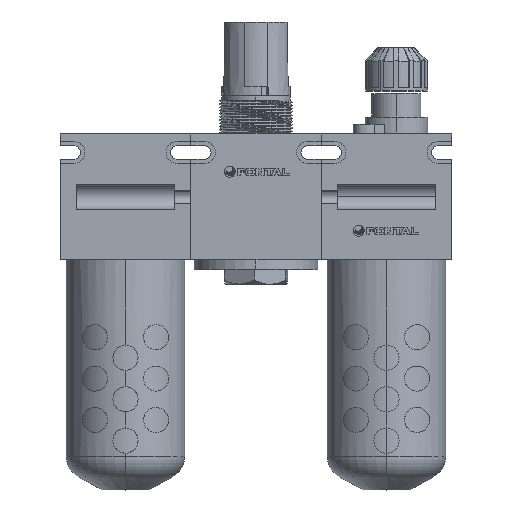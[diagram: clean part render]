
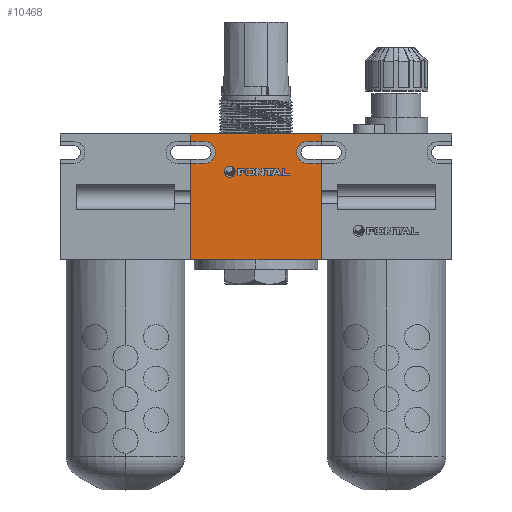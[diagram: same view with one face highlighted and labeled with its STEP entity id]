
A CAD part, top view. The second image highlights one B-rep face of the part: STEP entity #10468.
In plain terms, the highlighted planar face has unit normal (0, 0, 1).
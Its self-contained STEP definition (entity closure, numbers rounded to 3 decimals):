
#105 = CARTESIAN_POINT ( 'NONE',  ( -21., 18., 25.5 ) ) ;
#326 = EDGE_CURVE ( 'NONE', #9000, #21343, #13275, .T. ) ;
#359 = EDGE_CURVE ( 'NONE', #9798, #9694, #20286, .T. ) ;
#595 = DIRECTION ( 'NONE',  ( 1., 0., 0. ) ) ;
#787 = VERTEX_POINT ( 'NONE', #10275 ) ;
#973 = LINE ( 'NONE', #20592, #17378 ) ;
#1043 = ORIENTED_EDGE ( 'NONE', *, *, #8790, .F. ) ;
#1385 = FACE_OUTER_BOUND ( 'NONE', #3854, .T. ) ;
#1444 = CARTESIAN_POINT ( 'NONE',  ( 0., 0., 25.5 ) ) ;
#1609 = CARTESIAN_POINT ( 'NONE',  ( -26.5, 13.5, 25.5 ) ) ;
#1610 = EDGE_CURVE ( 'NONE', #19266, #9798, #21282, .T. ) ;
#1917 = CARTESIAN_POINT ( 'NONE',  ( 26.5, -25.5, 25.5 ) ) ;
#1954 = DIRECTION ( 'NONE',  ( 0., 1., 0. ) ) ;
#2467 = DIRECTION ( 'NONE',  ( 0., -1., 0. ) ) ;
#2652 = ORIENTED_EDGE ( 'NONE', *, *, #16516, .T. ) ;
#2708 = EDGE_CURVE ( 'NONE', #6701, #13417, #13602, .T. ) ;
#2999 = DIRECTION ( 'NONE',  ( -1., 0., 0. ) ) ;
#3025 = VECTOR ( 'NONE', #18273, 1000. ) ;
#3139 = DIRECTION ( 'NONE',  ( 0., 0., 1. ) ) ;
#3378 = VECTOR ( 'NONE', #6744, 1000. ) ;
#3572 = CARTESIAN_POINT ( 'NONE',  ( -26.5, 25.5, 25.5 ) ) ;
#3795 = CARTESIAN_POINT ( 'NONE',  ( -21., 22.5, 25.5 ) ) ;
#3854 = EDGE_LOOP ( 'NONE', ( #20158, #7472, #15091, #14853, #18501, #14666, #2652, #1043, #6659, #5483, #14826, #18643, #8374 ) ) ;
#3926 = LINE ( 'NONE', #17791, #21095 ) ;
#4516 = VECTOR ( 'NONE', #10303, 1000. ) ;
#4566 = CARTESIAN_POINT ( 'NONE',  ( -21., 13.5, 25.5 ) ) ;
#4596 = LINE ( 'NONE', #9892, #3025 ) ;
#4616 = EDGE_CURVE ( 'NONE', #20814, #16116, #16654, .T. ) ;
#4757 = EDGE_CURVE ( 'NONE', #9694, #12743, #18974, .T. ) ;
#4790 = DIRECTION ( 'NONE',  ( 0., 0., 1. ) ) ;
#5173 = DIRECTION ( 'NONE',  ( -1., 0., 0. ) ) ;
#5248 = CARTESIAN_POINT ( 'NONE',  ( 21., 18., 25.5 ) ) ;
#5425 = CARTESIAN_POINT ( 'NONE',  ( -26.5, 13.5, 25.5 ) ) ;
#5483 = ORIENTED_EDGE ( 'NONE', *, *, #359, .F. ) ;
#6155 = LINE ( 'NONE', #20412, #11383 ) ;
#6259 = CARTESIAN_POINT ( 'NONE',  ( -26.5, 25.5, 25.5 ) ) ;
#6458 = PLANE ( 'NONE',  #7314 ) ;
#6600 = CARTESIAN_POINT ( 'NONE',  ( -26.5, -25.5, 25.5 ) ) ;
#6659 = ORIENTED_EDGE ( 'NONE', *, *, #4757, .F. ) ;
#6701 = VERTEX_POINT ( 'NONE', #8365 ) ;
#6744 = DIRECTION ( 'NONE',  ( 1., 0., 0. ) ) ;
#7126 = EDGE_CURVE ( 'NONE', #19266, #20814, #973, .T. ) ;
#7314 = AXIS2_PLACEMENT_3D ( 'NONE', #1444, #4790, #7967 ) ;
#7382 = AXIS2_PLACEMENT_3D ( 'NONE', #5248, #10245, #5173 ) ;
#7472 = ORIENTED_EDGE ( 'NONE', *, *, #13763, .T. ) ;
#7529 = VERTEX_POINT ( 'NONE', #6259 ) ;
#7618 = EDGE_CURVE ( 'NONE', #16116, #787, #4596, .T. ) ;
#7656 = VECTOR ( 'NONE', #2999, 1000. ) ;
#7747 = VECTOR ( 'NONE', #1954, 1000. ) ;
#7963 = VECTOR ( 'NONE', #595, 1000. ) ;
#7967 = DIRECTION ( 'NONE',  ( 1., 0., 0. ) ) ;
#8365 = CARTESIAN_POINT ( 'NONE',  ( 21., 13.5, 25.5 ) ) ;
#8374 = ORIENTED_EDGE ( 'NONE', *, *, #4616, .T. ) ;
#8721 = LINE ( 'NONE', #13293, #7656 ) ;
#8790 = EDGE_CURVE ( 'NONE', #12743, #12918, #8721, .T. ) ;
#9000 = VERTEX_POINT ( 'NONE', #12164 ) ;
#9410 = DIRECTION ( 'NONE',  ( -1., 0., 0. ) ) ;
#9694 = VERTEX_POINT ( 'NONE', #12884 ) ;
#9798 = VERTEX_POINT ( 'NONE', #4566 ) ;
#9892 = CARTESIAN_POINT ( 'NONE',  ( 26.5, 25.5, 25.5 ) ) ;
#10245 = DIRECTION ( 'NONE',  ( 0., 0., -1. ) ) ;
#10275 = CARTESIAN_POINT ( 'NONE',  ( 26.5, 13.5, 25.5 ) ) ;
#10303 = DIRECTION ( 'NONE',  ( 0., -1., 0. ) ) ;
#10402 = CARTESIAN_POINT ( 'NONE',  ( -26.5, 22.5, 25.5 ) ) ;
#10468 = ADVANCED_FACE ( 'NONE', ( #1385 ), #6458, .T. ) ;
#10512 = CARTESIAN_POINT ( 'NONE',  ( 21., 22.5, 25.5 ) ) ;
#11383 = VECTOR ( 'NONE', #17066, 1000. ) ;
#11515 = AXIS2_PLACEMENT_3D ( 'NONE', #105, #3139, #21462 ) ;
#11916 = VECTOR ( 'NONE', #19709, 1000. ) ;
#12164 = CARTESIAN_POINT ( 'NONE',  ( 26.5, 22.5, 25.5 ) ) ;
#12291 = CARTESIAN_POINT ( 'NONE',  ( 21., 22.5, 25.5 ) ) ;
#12459 = CARTESIAN_POINT ( 'NONE',  ( -26.5, -25.5, 25.5 ) ) ;
#12743 = VERTEX_POINT ( 'NONE', #3795 ) ;
#12884 = CARTESIAN_POINT ( 'NONE',  ( -16.5, 18., 25.5 ) ) ;
#12918 = VERTEX_POINT ( 'NONE', #10402 ) ;
#13275 = LINE ( 'NONE', #15160, #7747 ) ;
#13293 = CARTESIAN_POINT ( 'NONE',  ( -21., 22.5, 25.5 ) ) ;
#13417 = VERTEX_POINT ( 'NONE', #12291 ) ;
#13602 = CIRCLE ( 'NONE', #7382, 4.5 ) ;
#13763 = EDGE_CURVE ( 'NONE', #787, #6701, #6155, .T. ) ;
#14309 = EDGE_CURVE ( 'NONE', #13417, #9000, #18652, .T. ) ;
#14372 = CARTESIAN_POINT ( 'NONE',  ( -21., 18., 25.5 ) ) ;
#14666 = ORIENTED_EDGE ( 'NONE', *, *, #19493, .T. ) ;
#14826 = ORIENTED_EDGE ( 'NONE', *, *, #1610, .F. ) ;
#14853 = ORIENTED_EDGE ( 'NONE', *, *, #14309, .T. ) ;
#15091 = ORIENTED_EDGE ( 'NONE', *, *, #2708, .T. ) ;
#15160 = CARTESIAN_POINT ( 'NONE',  ( 26.5, 25.5, 25.5 ) ) ;
#15973 = LINE ( 'NONE', #3572, #4516 ) ;
#16116 = VERTEX_POINT ( 'NONE', #1917 ) ;
#16177 = DIRECTION ( 'NONE',  ( 0., 0., 1. ) ) ;
#16516 = EDGE_CURVE ( 'NONE', #7529, #12918, #15973, .T. ) ;
#16654 = LINE ( 'NONE', #6600, #3378 ) ;
#17066 = DIRECTION ( 'NONE',  ( -1., 0., 0. ) ) ;
#17378 = VECTOR ( 'NONE', #2467, 1000. ) ;
#17522 = AXIS2_PLACEMENT_3D ( 'NONE', #14372, #16177, #17698 ) ;
#17698 = DIRECTION ( 'NONE',  ( 1., 0., 0. ) ) ;
#17791 = CARTESIAN_POINT ( 'NONE',  ( -26.5, 25.5, 25.5 ) ) ;
#18273 = DIRECTION ( 'NONE',  ( 0., 1., 0. ) ) ;
#18501 = ORIENTED_EDGE ( 'NONE', *, *, #326, .T. ) ;
#18643 = ORIENTED_EDGE ( 'NONE', *, *, #7126, .T. ) ;
#18652 = LINE ( 'NONE', #10512, #7963 ) ;
#18974 = CIRCLE ( 'NONE', #17522, 4.5 ) ;
#19266 = VERTEX_POINT ( 'NONE', #5425 ) ;
#19493 = EDGE_CURVE ( 'NONE', #21343, #7529, #3926, .T. ) ;
#19709 = DIRECTION ( 'NONE',  ( 1., 0., 0. ) ) ;
#20158 = ORIENTED_EDGE ( 'NONE', *, *, #7618, .T. ) ;
#20286 = CIRCLE ( 'NONE', #11515, 4.5 ) ;
#20412 = CARTESIAN_POINT ( 'NONE',  ( 26.5, 13.5, 25.5 ) ) ;
#20592 = CARTESIAN_POINT ( 'NONE',  ( -26.5, 25.5, 25.5 ) ) ;
#20814 = VERTEX_POINT ( 'NONE', #12459 ) ;
#20970 = CARTESIAN_POINT ( 'NONE',  ( 26.5, 25.5, 25.5 ) ) ;
#21095 = VECTOR ( 'NONE', #9410, 1000. ) ;
#21282 = LINE ( 'NONE', #1609, #11916 ) ;
#21343 = VERTEX_POINT ( 'NONE', #20970 ) ;
#21462 = DIRECTION ( 'NONE',  ( 1., 0., 0. ) ) ;
